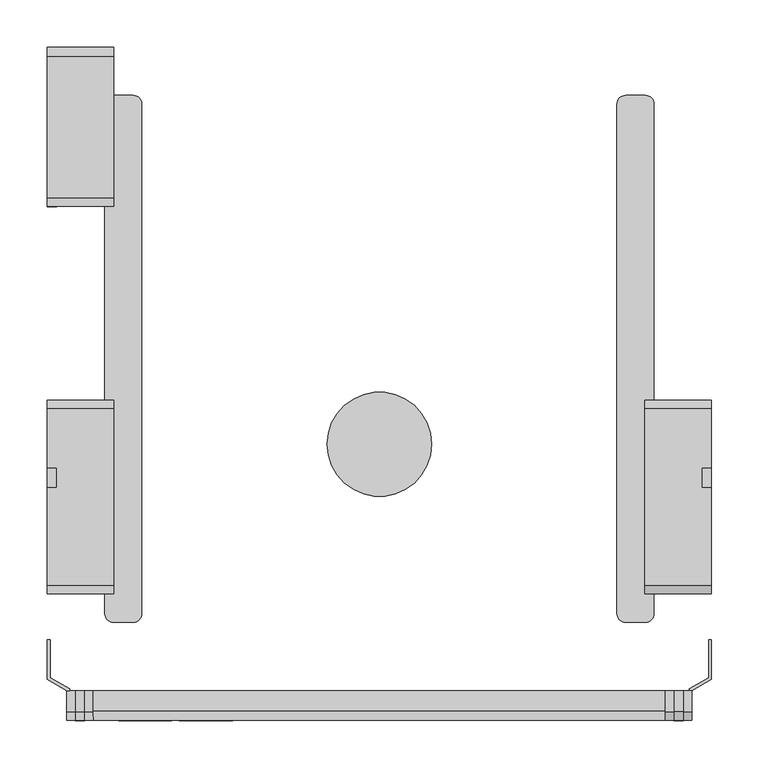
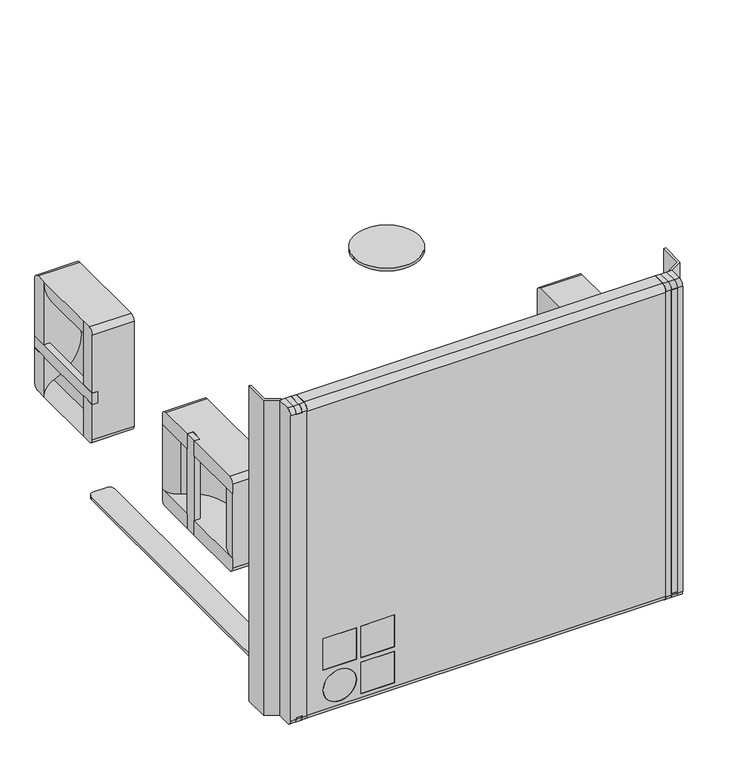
"""IFC4 building model written with IfcOpenShell, lengths in millimetres: proxy geometry, d&b SL-Series XSL-GSUB : XSL-GSUB."""

from ifc_helpers import new_model, si_unit, point, frame, frame_2d, origin, origin_with_axes, place, context, project, spatial, polyline, circle_curve, trimmed, segment, composite_curve, outline, extrude, source, transform, mapped, element, save
from ifc_brep_helpers import plane_surface, cylinder_surface, revolved_surface, advanced_brep


def communication_devices_533f041e(model_context):
    return source(origin(), model_context, "Body", "SolidModel", [
        advanced_brep(
        [(2780.0, 72.7505973, 211.5), (2780.0, 72.7505973, 361.0), (2780.0, 81.7505973, 370.0), (2780.0, 267.7505973, 370.0), (2780.0, 276.7505973, 361.0), (2780.0, 276.7505973, 211.5), (2780.0, 267.7505973, 202.5), (2780.0, 81.7505973, 202.5), (2850.0, 276.7505973, 228.5), (2850.0, 205.4484339, 228.5), (2850.0, 205.4484339, 202.5), (2850.0, 267.7505973, 202.5), (2850.0, 276.7505973, 211.5), (2850.0, 72.7505973, 211.5), (2850.0, 81.7505973, 202.5), (2850.0, 184.6043444, 202.5), (2850.0, 184.6043444, 228.5), (2850.0, 72.7505973, 228.5), (2850.0, 72.7505973, 361.0), (2850.0, 72.7505973, 344.0), (2850.0, 184.6043444, 344.0), (2850.0, 184.6043444, 370.0), (2850.0, 81.7505973, 370.0), (2850.0, 276.7505973, 344.0), (2850.0, 276.7505973, 361.0), (2850.0, 267.7505973, 370.0), (2850.0, 205.4484339, 370.0), (2850.0, 205.4484339, 344.0), (2840.0, 205.4484339, 202.5), (2840.0, 184.6043444, 202.5), (2840.0, 184.6043444, 228.5), (2833.0638712, 252.8480463, 228.5), (2818.7971722, 129.7198126, 228.5), (2840.0, 205.4484339, 228.5), (2818.7971722, 129.7198126, 344.0), (2833.0638712, 252.8480463, 344.0), (2840.0, 205.4484339, 344.0), (2840.0, 184.6043444, 344.0), (2840.0, 184.6043444, 370.0), (2840.0, 205.4484339, 370.0)],
        [
            (0, 1),
            (1, 2, circle_curve(frame((2780.0, 81.7505973, 361.0), z_axis=(-1.0, 0.0, 0.0), x_axis=(0.0, 0.0, 1.0)), 9.0)),
            (2, 3),
            (3, 4, circle_curve(frame((2780.0, 267.7505973, 361.0), z_axis=(-1.0, 0.0, 0.0), x_axis=(0.0, 0.0, 1.0)), 9.0)),
            (4, 5),
            (5, 6, circle_curve(frame((2780.0, 267.7505973, 211.5), z_axis=(-1.0, 0.0, 0.0), x_axis=(0.0, 0.0, -1.0)), 9.0)),
            (6, 7),
            (7, 0, circle_curve(frame((2780.0, 81.7505973, 211.5), z_axis=(-1.0, 0.0, 0.0), x_axis=(0.0, 0.0, -1.0)), 9.0)),
            (8, 9),
            (9, 10),
            (10, 11),
            (11, 12, circle_curve(frame((2850.0, 267.7505973, 211.5), z_axis=(1.0, 0.0, 0.0), x_axis=(0.0, 0.0, -1.0)), 9.0)),
            (12, 8),
            (13, 14, circle_curve(frame((2850.0, 81.7505973, 211.5), z_axis=(1.0, 0.0, 0.0), x_axis=(0.0, 0.0, -1.0)), 9.0)),
            (14, 15),
            (15, 16),
            (16, 17),
            (17, 13),
            (18, 19),
            (19, 20),
            (20, 21),
            (21, 22),
            (22, 18, circle_curve(frame((2850.0, 81.7505973, 361.0), z_axis=(1.0, 0.0, 0.0), x_axis=(0.0, 0.0, 1.0)), 9.0)),
            (23, 24),
            (24, 25, circle_curve(frame((2850.0, 267.7505973, 361.0), z_axis=(1.0, 0.0, 0.0), x_axis=(0.0, 0.0, 1.0)), 9.0)),
            (25, 26),
            (26, 27),
            (27, 23),
            (7, 14),
            (13, 0),
            (10, 28),
            (28, 29),
            (29, 15),
            (6, 11),
            (5, 12),
            (4, 24),
            (23, 8),
            (17, 19),
            (18, 1),
            (29, 30),
            (30, 16),
            (8, 31, circle_curve(frame((2824.6646824, 276.7505973, 228.5), z_axis=(0.0, 0.0, -1.0), x_axis=(-1.0, 0.0, 0.0)), 25.3353176)),
            (31, 32, circle_curve(frame((2855.918024, 187.8093188, 228.5), z_axis=(0.0, 0.0, 1.0), x_axis=(-1.0, 0.0, 0.0)), 68.9372786)),
            (32, 17, circle_curve(frame((2782.3922182, 72.7505973, 228.5), z_axis=(0.0, 0.0, -1.0), x_axis=(-1.0, 0.0, 0.0)), 67.6077818)),
            (30, 33),
            (33, 9),
            (33, 28),
            (19, 34, circle_curve(frame((2782.3922182, 72.7505973, 344.0), z_axis=(0.0, 0.0, 1.0), x_axis=(-1.0, 0.0, 0.0)), 67.6077818)),
            (34, 35, circle_curve(frame((2855.918024, 187.8093188, 344.0), z_axis=(0.0, 0.0, -1.0), x_axis=(-1.0, 0.0, 0.0)), 68.9372786)),
            (35, 23, circle_curve(frame((2824.6646824, 276.7505973, 344.0), z_axis=(0.0, 0.0, 1.0), x_axis=(-1.0, 0.0, 0.0)), 25.3353176)),
            (27, 36),
            (36, 37),
            (37, 20),
            (37, 38),
            (38, 21),
            (38, 39),
            (39, 26),
            (25, 3),
            (2, 22),
            (39, 36),
            (32, 34),
            (35, 31),
        ],
        [
            plane_surface(frame((2780.0, 81.7505973, 202.5), z_axis=(-1.0, 0.0, 0.0), x_axis=(0.0, 1.0, 0.0))),
            plane_surface(frame((2850.0, 81.7505973, 202.5), z_axis=(1.0, 0.0, 0.0), x_axis=(0.0, -1.0, 0.0))),
            cylinder_surface(frame((2850.0, 81.7505973, 211.5), z_axis=(-1.0, 0.0, 0.0), x_axis=(0.0, 0.0, -1.0)), 9.0),
            plane_surface(frame((2780.0, 81.7505973, 202.5), z_axis=(0.0, 0.0, -1.0), x_axis=(1.0, 0.0, 0.0))),
            cylinder_surface(frame((2850.0, 267.7505973, 211.5), z_axis=(-1.0, 0.0, 0.0), x_axis=(0.0, 0.0, -1.0)), 9.0),
            plane_surface(frame((2780.0, 276.7505973, 211.5), z_axis=(0.0, 1.0, 0.0), x_axis=(1.0, 0.0, 0.0))),
            plane_surface(frame((2780.0, 72.7505973, 228.5), z_axis=(0.0, -1.0, 0.0), x_axis=(1.0, 0.0, 0.0))),
            plane_surface(frame((2780.0, 184.6043444, 202.5), z_axis=(0.0, 1.0, 0.0), x_axis=(1.0, 0.0, 0.0))),
            plane_surface(frame((2780.0, 184.6043444, 228.5), z_axis=(0.0, 0.0, 1.0), x_axis=(1.0, 0.0, 0.0))),
            plane_surface(frame((2780.0, 205.4484339, 228.5), z_axis=(0.0, -1.0, 0.0), x_axis=(1.0, 0.0, 0.0))),
            plane_surface(frame((2780.0, 72.7505973, 344.0), z_axis=(0.0, 0.0, -1.0), x_axis=(1.0, 0.0, 0.0))),
            plane_surface(frame((2780.0, 184.6043444, 344.0), z_axis=(0.0, 1.0, 0.0), x_axis=(1.0, 0.0, 0.0))),
            plane_surface(frame((2780.0, 184.6043444, 370.0), z_axis=(0.0, 0.0, 1.0), x_axis=(1.0, 0.0, 0.0))),
            cylinder_surface(frame((2850.0, 81.7505973, 361.0), z_axis=(-1.0, 0.0, 0.0), x_axis=(0.0, 0.0, 1.0)), 9.0),
            cylinder_surface(frame((2850.0, 267.7505973, 361.0), z_axis=(-1.0, 0.0, 0.0), x_axis=(0.0, 0.0, 1.0)), 9.0),
            plane_surface(frame((2780.0, 205.4484339, 370.0), z_axis=(0.0, -1.0, 0.0), x_axis=(1.0, 0.0, 0.0))),
            plane_surface(frame((2840.0, 205.4484339, 228.5), z_axis=(1.0, 0.0, 0.0), x_axis=(0.0, 0.0, -1.0))),
            cylinder_surface(frame((2782.3922182, 72.7505973, 228.5), z_axis=(0.0, 0.0, 1.0), x_axis=(-1.0, 0.0, 0.0)), 67.6077818),
            cylinder_surface(frame((2824.6646824, 276.7505973, 228.5), z_axis=(0.0, 0.0, 1.0), x_axis=(-1.0, 0.0, 0.0)), 25.3353176),
            revolved_surface(polyline([(2786.9807454, 187.8093188, 228.5), (2786.9807454, 187.8093188, 344.0)]), (2855.918024, 187.8093188, 228.5), (0.0, 0.0, -1.0)),
        ],
        [
            (0, [[1, 2, 3, 4, 5, 6, 7, 8]]),
            (1, [[9, 10, 11, 12, 13]]),
            (1, [[14, 15, 16, 17, 18]]),
            (1, [[19, 20, 21, 22, 23]]),
            (1, [[24, 25, 26, 27, 28]]),
            (2, [[29, -14, 30, -8]]),
            (3, [[31, 32, 33, -15, -29, -7, 34, -11]]),
            (4, [[35, -12, -34, -6]]),
            (5, [[36, -24, 37, -13, -35, -5]]),
            (6, [[-30, -18, 38, -19, 39, -1]]),
            (7, [[-33, 40, 41, -16]]),
            (8, [[42, 43, 44, -17, -41, 45, 46, -9]]),
            (9, [[-46, 47, -31, -10]]),
            (10, [[48, 49, 50, -28, 51, 52, 53, -20]]),
            (11, [[-53, 54, 55, -21]]),
            (12, [[-55, 56, 57, -26, 58, -3, 59, -22]]),
            (13, [[-39, -23, -59, -2]]),
            (14, [[-58, -25, -36, -4]]),
            (15, [[-57, 60, -51, -27]]),
            (16, [[-47, -45, -40, -32]]),
            (16, [[-60, -56, -54, -52]]),
            (17, [[-48, -38, -44, 61]]),
            (18, [[-50, 62, -42, -37]]),
            (19, [[-43, -62, -49, -61]]),
        ],
    ),
        extrude(outline(polyline([(2840.0, 205.4484339), (2850.0, 205.4484339), (2850.0, 184.6043444), (2840.0, 184.6043444), (2840.0, 205.4484339)])), frame((0.0, 0.0, 202.5), z_axis=(0.0, 0.0, 1.0), x_axis=(1.0, 0.0, 0.0)), (0.0, 0.0, 1.0), 167.5),
        advanced_brep(
        [(2220.0, 639.2505973, 387.5), (2220.0, 489.7505973, 387.5), (2220.0, 480.7505973, 378.5), (2220.0, 480.7505973, 192.5), (2220.0, 489.7505973, 183.5), (2220.0, 639.2505973, 183.5), (2220.0, 648.2505973, 192.5), (2220.0, 648.2505973, 378.5), (2150.0, 622.2505973, 183.5), (2150.0, 622.2505973, 254.8021634), (2150.0, 648.2505973, 254.8021634), (2150.0, 648.2505973, 192.5), (2150.0, 639.2505973, 183.5), (2150.0, 639.2505973, 387.5), (2150.0, 648.2505973, 378.5), (2150.0, 648.2505973, 275.646253), (2150.0, 622.2505973, 275.646253), (2150.0, 622.2505973, 387.5), (2150.0, 489.7505973, 387.5), (2150.0, 506.7505973, 387.5), (2150.0, 506.7505973, 275.646253), (2150.0, 480.7505973, 275.646253), (2150.0, 480.7505973, 378.5), (2150.0, 506.7505973, 183.5), (2150.0, 489.7505973, 183.5), (2150.0, 480.7505973, 192.5), (2150.0, 480.7505973, 254.8021634), (2150.0, 506.7505973, 254.8021634), (2160.0, 648.2505973, 254.8021634), (2160.0, 648.2505973, 275.646253), (2160.0, 622.2505973, 275.646253), (2166.9361288, 622.2505973, 207.402551), (2181.2028278, 622.2505973, 330.5307847), (2160.0, 622.2505973, 254.8021634), (2181.2028278, 506.7505973, 330.5307847), (2166.9361288, 506.7505973, 207.402551), (2160.0, 506.7505973, 254.8021634), (2160.0, 506.7505973, 275.646253), (2160.0, 480.7505973, 275.646253), (2160.0, 480.7505973, 254.8021634)],
        [
            (0, 1),
            (1, 2, circle_curve(frame((2220.0, 489.7505973, 378.5), z_axis=(1.0, 0.0, 0.0), x_axis=(0.0, -1.0, 0.0)), 9.0)),
            (2, 3),
            (3, 4, circle_curve(frame((2220.0, 489.7505973, 192.5), z_axis=(1.0, 0.0, 0.0), x_axis=(0.0, -1.0, 0.0)), 9.0)),
            (4, 5),
            (5, 6, circle_curve(frame((2220.0, 639.2505973, 192.5), z_axis=(1.0, 0.0, 0.0), x_axis=(0.0, 1.0, 0.0)), 9.0)),
            (6, 7),
            (7, 0, circle_curve(frame((2220.0, 639.2505973, 378.5), z_axis=(1.0, 0.0, 0.0), x_axis=(0.0, 1.0, 0.0)), 9.0)),
            (8, 9),
            (9, 10),
            (10, 11),
            (11, 12, circle_curve(frame((2150.0, 639.2505973, 192.5), z_axis=(-1.0, 0.0, 0.0), x_axis=(0.0, 1.0, 0.0)), 9.0)),
            (12, 8),
            (13, 14, circle_curve(frame((2150.0, 639.2505973, 378.5), z_axis=(-1.0, 0.0, 0.0), x_axis=(0.0, 1.0, 0.0)), 9.0)),
            (14, 15),
            (15, 16),
            (16, 17),
            (17, 13),
            (18, 19),
            (19, 20),
            (20, 21),
            (21, 22),
            (22, 18, circle_curve(frame((2150.0, 489.7505973, 378.5), z_axis=(-1.0, 0.0, 0.0), x_axis=(0.0, -1.0, 0.0)), 9.0)),
            (23, 24),
            (24, 25, circle_curve(frame((2150.0, 489.7505973, 192.5), z_axis=(-1.0, 0.0, 0.0), x_axis=(0.0, -1.0, 0.0)), 9.0)),
            (25, 26),
            (26, 27),
            (27, 23),
            (7, 14),
            (13, 0),
            (10, 28),
            (28, 29),
            (29, 15),
            (6, 11),
            (5, 12),
            (4, 24),
            (23, 8),
            (17, 19),
            (18, 1),
            (29, 30),
            (30, 16),
            (8, 31, circle_curve(frame((2175.3353176, 622.2505973, 183.5), z_axis=(0.0, 1.0, 0.0), x_axis=(1.0, 0.0, 0.0)), 25.3353176)),
            (31, 32, circle_curve(frame((2144.081976, 622.2505973, 272.4412785), z_axis=(0.0, -1.0, 0.0), x_axis=(1.0, 0.0, 0.0)), 68.9372786)),
            (32, 17, circle_curve(frame((2217.6077818, 622.2505973, 387.5), z_axis=(0.0, 1.0, 0.0), x_axis=(1.0, 0.0, 0.0)), 67.6077818)),
            (30, 33),
            (33, 9),
            (33, 28),
            (19, 34, circle_curve(frame((2217.6077818, 506.7505973, 387.5), z_axis=(0.0, -1.0, 0.0), x_axis=(1.0, 0.0, 0.0)), 67.6077818)),
            (34, 35, circle_curve(frame((2144.081976, 506.7505973, 272.4412785), z_axis=(0.0, 1.0, 0.0), x_axis=(1.0, 0.0, 0.0)), 68.9372786)),
            (35, 23, circle_curve(frame((2175.3353176, 506.7505973, 183.5), z_axis=(0.0, -1.0, 0.0), x_axis=(1.0, 0.0, 0.0)), 25.3353176)),
            (27, 36),
            (36, 37),
            (37, 20),
            (37, 38),
            (38, 21),
            (38, 39),
            (39, 26),
            (25, 3),
            (2, 22),
            (39, 36),
            (32, 34),
            (35, 31),
        ],
        [
            plane_surface(frame((2220.0, 648.2505973, 378.5), z_axis=(1.0, 0.0, 0.0), x_axis=(0.0, 0.0, -1.0))),
            plane_surface(frame((2150.0, 648.2505973, 378.5), z_axis=(-1.0, 0.0, 0.0), x_axis=(0.0, 0.0, 1.0))),
            cylinder_surface(frame((2150.0, 639.2505973, 378.5), z_axis=(1.0, 0.0, 0.0), x_axis=(0.0, 1.0, 0.0)), 9.0),
            plane_surface(frame((2220.0, 648.2505973, 378.5), z_axis=(0.0, 1.0, 0.0), x_axis=(-1.0, 0.0, 0.0))),
            cylinder_surface(frame((2150.0, 639.2505973, 192.5), z_axis=(1.0, 0.0, 0.0), x_axis=(0.0, 1.0, 0.0)), 9.0),
            plane_surface(frame((2220.0, 639.2505973, 183.5), z_axis=(0.0, 0.0, -1.0), x_axis=(-1.0, 0.0, 0.0))),
            plane_surface(frame((2220.0, 622.2505973, 387.5), z_axis=(0.0, 0.0, 1.0), x_axis=(-1.0, 0.0, 0.0))),
            plane_surface(frame((2220.0, 648.2505973, 275.646253), z_axis=(0.0, 0.0, -1.0), x_axis=(-1.0, 0.0, 0.0))),
            plane_surface(frame((2220.0, 622.2505973, 275.646253), z_axis=(0.0, -1.0, 0.0), x_axis=(-1.0, 0.0, 0.0))),
            plane_surface(frame((2220.0, 622.2505973, 254.8021634), z_axis=(0.0, 0.0, 1.0), x_axis=(-1.0, 0.0, 0.0))),
            plane_surface(frame((2220.0, 506.7505973, 387.5), z_axis=(0.0, 1.0, 0.0), x_axis=(-1.0, 0.0, 0.0))),
            plane_surface(frame((2220.0, 506.7505973, 275.646253), z_axis=(0.0, 0.0, -1.0), x_axis=(-1.0, 0.0, 0.0))),
            plane_surface(frame((2220.0, 480.7505973, 275.646253), z_axis=(0.0, -1.0, 0.0), x_axis=(-1.0, 0.0, 0.0))),
            cylinder_surface(frame((2150.0, 489.7505973, 378.5), z_axis=(1.0, 0.0, 0.0), x_axis=(0.0, -1.0, 0.0)), 9.0),
            cylinder_surface(frame((2150.0, 489.7505973, 192.5), z_axis=(1.0, 0.0, 0.0), x_axis=(0.0, -1.0, 0.0)), 9.0),
            plane_surface(frame((2220.0, 480.7505973, 254.8021634), z_axis=(0.0, 0.0, 1.0), x_axis=(-1.0, 0.0, 0.0))),
            plane_surface(frame((2160.0, 622.2505973, 254.8021634), z_axis=(-1.0, 0.0, 0.0), x_axis=(0.0, 1.0, 0.0))),
            cylinder_surface(frame((2217.6077818, 622.2505973, 387.5), z_axis=(0.0, -1.0, 0.0), x_axis=(1.0, 0.0, 0.0)), 67.6077818),
            cylinder_surface(frame((2175.3353176, 622.2505973, 183.5), z_axis=(0.0, -1.0, 0.0), x_axis=(1.0, 0.0, 0.0)), 25.3353176),
            revolved_surface(polyline([(2213.0192546, 622.2505973, 272.4412785), (2213.0192546, 506.7505973, 272.4412785)]), (2144.081976, 622.2505973, 272.4412785), (0.0, 1.0, 0.0)),
        ],
        [
            (0, [[1, 2, 3, 4, 5, 6, 7, 8]]),
            (1, [[9, 10, 11, 12, 13]]),
            (1, [[14, 15, 16, 17, 18]]),
            (1, [[19, 20, 21, 22, 23]]),
            (1, [[24, 25, 26, 27, 28]]),
            (2, [[29, -14, 30, -8]]),
            (3, [[31, 32, 33, -15, -29, -7, 34, -11]]),
            (4, [[35, -12, -34, -6]]),
            (5, [[36, -24, 37, -13, -35, -5]]),
            (6, [[-30, -18, 38, -19, 39, -1]]),
            (7, [[-33, 40, 41, -16]]),
            (8, [[42, 43, 44, -17, -41, 45, 46, -9]]),
            (9, [[-46, 47, -31, -10]]),
            (10, [[48, 49, 50, -28, 51, 52, 53, -20]]),
            (11, [[-53, 54, 55, -21]]),
            (12, [[-55, 56, 57, -26, 58, -3, 59, -22]]),
            (13, [[-39, -23, -59, -2]]),
            (14, [[-58, -25, -36, -4]]),
            (15, [[-57, 60, -51, -27]]),
            (16, [[-47, -45, -40, -32]]),
            (16, [[-60, -56, -54, -52]]),
            (17, [[-48, -38, -44, 61]]),
            (18, [[-50, 62, -42, -37]]),
            (19, [[-43, -62, -49, -61]]),
        ],
    ),
        extrude(outline(polyline([(2160.0, 480.7505973), (2150.0, 480.7505973), (2150.0, 648.2505973), (2160.0, 648.2505973), (2160.0, 480.7505973)])), frame((0.0, 0.0, 254.8021634), z_axis=(0.0, 0.0, 1.0), x_axis=(1.0, 0.0, 0.0)), (0.0, 0.0, 1.0), 20.8440895),
        advanced_brep(
        [(2220.0, 72.7505973, 211.5), (2220.0, 81.7505973, 202.5), (2220.0, 267.7505973, 202.5), (2220.0, 276.7505973, 211.5), (2220.0, 276.7505973, 361.0), (2220.0, 267.7505973, 370.0), (2220.0, 81.7505973, 370.0), (2220.0, 72.7505973, 361.0), (2150.0, 276.7505973, 228.5), (2150.0, 276.7505973, 211.5), (2150.0, 267.7505973, 202.5), (2150.0, 205.4484339, 202.5), (2150.0, 205.4484339, 228.5), (2150.0, 72.7505973, 211.5), (2150.0, 72.7505973, 228.5), (2150.0, 184.6043444, 228.5), (2150.0, 184.6043444, 202.5), (2150.0, 81.7505973, 202.5), (2150.0, 72.7505973, 361.0), (2150.0, 81.7505973, 370.0), (2150.0, 184.6043444, 370.0), (2150.0, 184.6043444, 344.0), (2150.0, 72.7505973, 344.0), (2150.0, 276.7505973, 344.0), (2150.0, 205.4484339, 344.0), (2150.0, 205.4484339, 370.0), (2150.0, 267.7505973, 370.0), (2150.0, 276.7505973, 361.0), (2160.0, 184.6043444, 202.5), (2160.0, 205.4484339, 202.5), (2160.0, 184.6043444, 228.5), (2160.0, 205.4484339, 228.5), (2181.2028278, 129.7198126, 228.5), (2166.9361288, 252.8480463, 228.5), (2160.0, 184.6043444, 344.0), (2160.0, 205.4484339, 344.0), (2166.9361288, 252.8480463, 344.0), (2181.2028278, 129.7198126, 344.0), (2160.0, 184.6043444, 370.0), (2160.0, 205.4484339, 370.0)],
        [
            (0, 1, circle_curve(frame((2220.0, 81.7505973, 211.5), z_axis=(1.0, 0.0, 0.0), x_axis=(0.0, 0.0, -1.0)), 9.0)),
            (1, 2),
            (2, 3, circle_curve(frame((2220.0, 267.7505973, 211.5), z_axis=(1.0, 0.0, 0.0), x_axis=(0.0, 0.0, -1.0)), 9.0)),
            (3, 4),
            (4, 5, circle_curve(frame((2220.0, 267.7505973, 361.0), z_axis=(1.0, 0.0, 0.0), x_axis=(0.0, 0.0, 1.0)), 9.0)),
            (5, 6),
            (6, 7, circle_curve(frame((2220.0, 81.7505973, 361.0), z_axis=(1.0, 0.0, 0.0), x_axis=(0.0, 0.0, 1.0)), 9.0)),
            (7, 0),
            (8, 9),
            (9, 10, circle_curve(frame((2150.0, 267.7505973, 211.5), z_axis=(-1.0, 0.0, 0.0), x_axis=(0.0, 0.0, -1.0)), 9.0)),
            (10, 11),
            (11, 12),
            (12, 8),
            (13, 14),
            (14, 15),
            (15, 16),
            (16, 17),
            (17, 13, circle_curve(frame((2150.0, 81.7505973, 211.5), z_axis=(-1.0, 0.0, 0.0), x_axis=(0.0, 0.0, -1.0)), 9.0)),
            (18, 19, circle_curve(frame((2150.0, 81.7505973, 361.0), z_axis=(-1.0, 0.0, 0.0), x_axis=(0.0, 0.0, 1.0)), 9.0)),
            (19, 20),
            (20, 21),
            (21, 22),
            (22, 18),
            (23, 24),
            (24, 25),
            (25, 26),
            (26, 27, circle_curve(frame((2150.0, 267.7505973, 361.0), z_axis=(-1.0, 0.0, 0.0), x_axis=(0.0, 0.0, 1.0)), 9.0)),
            (27, 23),
            (0, 13),
            (17, 1),
            (10, 2),
            (16, 28),
            (28, 29),
            (29, 11),
            (9, 3),
            (8, 23),
            (27, 4),
            (7, 18),
            (22, 14),
            (15, 30),
            (30, 28),
            (12, 31),
            (31, 30),
            (14, 32, circle_curve(frame((2217.6077818, 72.7505973, 228.5), z_axis=(0.0, 0.0, -1.0), x_axis=(1.0, 0.0, 0.0)), 67.6077818)),
            (32, 33, circle_curve(frame((2144.081976, 187.8093188, 228.5), z_axis=(0.0, 0.0, 1.0), x_axis=(1.0, 0.0, 0.0)), 68.9372786)),
            (33, 8, circle_curve(frame((2175.3353176, 276.7505973, 228.5), z_axis=(0.0, 0.0, -1.0), x_axis=(1.0, 0.0, 0.0)), 25.3353176)),
            (29, 31),
            (21, 34),
            (34, 35),
            (35, 24),
            (23, 36, circle_curve(frame((2175.3353176, 276.7505973, 344.0), z_axis=(0.0, 0.0, 1.0), x_axis=(1.0, 0.0, 0.0)), 25.3353176)),
            (36, 37, circle_curve(frame((2144.081976, 187.8093188, 344.0), z_axis=(0.0, 0.0, -1.0), x_axis=(1.0, 0.0, 0.0)), 68.9372786)),
            (37, 22, circle_curve(frame((2217.6077818, 72.7505973, 344.0), z_axis=(0.0, 0.0, 1.0), x_axis=(1.0, 0.0, 0.0)), 67.6077818)),
            (20, 38),
            (38, 34),
            (19, 6),
            (5, 26),
            (25, 39),
            (39, 38),
            (35, 39),
            (37, 32),
            (33, 36),
        ],
        [
            plane_surface(frame((2220.0, 81.7505973, 202.5), z_axis=(1.0, 0.0, 0.0), x_axis=(0.0, 1.0, 0.0))),
            plane_surface(frame((2150.0, 81.7505973, 202.5), z_axis=(-1.0, 0.0, 0.0), x_axis=(0.0, -1.0, 0.0))),
            cylinder_surface(frame((2150.0, 81.7505973, 211.5), z_axis=(1.0, 0.0, 0.0), x_axis=(0.0, 0.0, -1.0)), 9.0),
            plane_surface(frame((2220.0, 81.7505973, 202.5), z_axis=(0.0, 0.0, -1.0), x_axis=(-1.0, 0.0, 0.0))),
            cylinder_surface(frame((2150.0, 267.7505973, 211.5), z_axis=(1.0, 0.0, 0.0), x_axis=(0.0, 0.0, -1.0)), 9.0),
            plane_surface(frame((2220.0, 276.7505973, 211.5), z_axis=(0.0, 1.0, 0.0), x_axis=(-1.0, 0.0, 0.0))),
            plane_surface(frame((2220.0, 72.7505973, 228.5), z_axis=(0.0, -1.0, 0.0), x_axis=(-1.0, 0.0, 0.0))),
            plane_surface(frame((2220.0, 184.6043444, 202.5), z_axis=(0.0, 1.0, 0.0), x_axis=(-1.0, 0.0, 0.0))),
            plane_surface(frame((2220.0, 184.6043444, 228.5), z_axis=(0.0, 0.0, 1.0), x_axis=(-1.0, 0.0, 0.0))),
            plane_surface(frame((2220.0, 205.4484339, 228.5), z_axis=(0.0, -1.0, 0.0), x_axis=(-1.0, 0.0, 0.0))),
            plane_surface(frame((2220.0, 72.7505973, 344.0), z_axis=(0.0, 0.0, -1.0), x_axis=(-1.0, 0.0, 0.0))),
            plane_surface(frame((2220.0, 184.6043444, 344.0), z_axis=(0.0, 1.0, 0.0), x_axis=(-1.0, 0.0, 0.0))),
            plane_surface(frame((2220.0, 184.6043444, 370.0), z_axis=(0.0, 0.0, 1.0), x_axis=(-1.0, 0.0, 0.0))),
            cylinder_surface(frame((2150.0, 81.7505973, 361.0), z_axis=(1.0, 0.0, 0.0), x_axis=(0.0, 0.0, 1.0)), 9.0),
            cylinder_surface(frame((2150.0, 267.7505973, 361.0), z_axis=(1.0, 0.0, 0.0), x_axis=(0.0, 0.0, 1.0)), 9.0),
            plane_surface(frame((2220.0, 205.4484339, 370.0), z_axis=(0.0, -1.0, 0.0), x_axis=(-1.0, 0.0, 0.0))),
            plane_surface(frame((2160.0, 205.4484339, 228.5), z_axis=(-1.0, 0.0, 0.0), x_axis=(0.0, 0.0, -1.0))),
            cylinder_surface(frame((2217.6077818, 72.7505973, 228.5), z_axis=(0.0, 0.0, 1.0), x_axis=(1.0, 0.0, 0.0)), 67.6077818),
            cylinder_surface(frame((2175.3353176, 276.7505973, 228.5), z_axis=(0.0, 0.0, 1.0), x_axis=(1.0, 0.0, 0.0)), 25.3353176),
            revolved_surface(polyline([(2213.0192546, 187.8093188, 228.5), (2213.0192546, 187.8093188, 344.0)]), (2144.081976, 187.8093188, 228.5), (0.0, 0.0, -1.0)),
        ],
        [
            (0, [[1, 2, 3, 4, 5, 6, 7, 8]]),
            (1, [[9, 10, 11, 12, 13]]),
            (1, [[14, 15, 16, 17, 18]]),
            (1, [[19, 20, 21, 22, 23]]),
            (1, [[24, 25, 26, 27, 28]]),
            (2, [[-1, 29, -18, 30]]),
            (3, [[-11, 31, -2, -30, -17, 32, 33, 34]]),
            (4, [[-3, -31, -10, 35]]),
            (5, [[-4, -35, -9, 36, -28, 37]]),
            (6, [[-8, 38, -23, 39, -14, -29]]),
            (7, [[-16, 40, 41, -32]]),
            (8, [[-13, 42, 43, -40, -15, 44, 45, 46]]),
            (9, [[-12, -34, 47, -42]]),
            (10, [[-22, 48, 49, 50, -24, 51, 52, 53]]),
            (11, [[-21, 54, 55, -48]]),
            (12, [[-20, 56, -6, 57, -26, 58, 59, -54]]),
            (13, [[-7, -56, -19, -38]]),
            (14, [[-5, -37, -27, -57]]),
            (15, [[-25, -50, 60, -58]]),
            (16, [[-33, -41, -43, -47]]),
            (16, [[-49, -55, -59, -60]]),
            (17, [[61, -44, -39, -53]]),
            (18, [[-36, -46, 62, -51]]),
            (19, [[-61, -52, -62, -45]]),
        ],
    ),
        extrude(outline(polyline([(2160.0, 205.4484339), (2160.0, 184.6043444), (2150.0, 184.6043444), (2150.0, 205.4484339), (2160.0, 205.4484339)])), frame((0.0, 0.0, 202.5), z_axis=(0.0, 0.0, 1.0), x_axis=(1.0, 0.0, 0.0)), (0.0, 0.0, 1.0), 167.5),
        extrude(outline(polyline([(2810.5, -60.7494027), (2810.5, -29.2494027), (2820.5, -29.2494027), (2820.5, -60.7494027), (2810.5, -60.7494027)])), frame((0.0, 0.0, 16.6), z_axis=(0.0, 0.0, 1.0), x_axis=(1.0, 0.0, 0.0)), (0.0, 0.0, 1.0), 538.4),
        extrude(outline(composite_curve([segment(polyline([(-29.2494027, 565.0), (-29.2494027, 5.0), (-51.7494027, 5.0)]), True, "CONTINUOUS"), segment(trimmed(circle_curve(frame_2d((-51.7494027, 14.0)), 9.0), [point((-51.7494027, 5.0))], [point((-60.7494027, 14.0))], False, "CARTESIAN"), True, "CONTINUOUS"), segment(polyline([(-60.7494027, 14.0), (-60.7494027, 556.0)]), True, "CONTINUOUS"), segment(trimmed(circle_curve(frame_2d((-51.7494027, 556.0)), 9.0), [point((-60.7494027, 556.0))], [point((-51.7494027, 565.0))], False, "CARTESIAN"), True, "CONTINUOUS"), segment(polyline([(-51.7494027, 565.0), (-29.2494027, 565.0)]), True, "CONTINUOUS")], self_intersect=False)), frame((2801.5, 0.0, 0.0), z_axis=(1.0, 0.0, 0.0), x_axis=(0.0, 1.0, 0.0)), (0.0, 0.0, 1.0), 9.0),
        extrude(outline(composite_curve([segment(polyline([(-29.2494027, 555.0), (-60.7494027, 555.0), (-60.7494027, 556.0)]), True, "CONTINUOUS"), segment(trimmed(circle_curve(frame_2d((-51.7494027, 556.0)), 9.0), [point((-60.7494027, 556.0))], [point((-51.7494027, 565.0))], False, "CARTESIAN"), True, "CONTINUOUS"), segment(polyline([(-51.7494027, 565.0), (-29.2494027, 565.0), (-29.2494027, 555.0)]), True, "CONTINUOUS")], self_intersect=False)), frame((2810.5, 0.0, 0.0), z_axis=(1.0, 0.0, 0.0), x_axis=(0.0, 1.0, 0.0)), (0.0, 0.0, 1.0), 10.0),
        extrude(outline(composite_curve([segment(polyline([(-29.2494027, 16.6), (-29.2494027, 5.0), (-51.7494027, 5.0)]), True, "CONTINUOUS"), segment(trimmed(circle_curve(frame_2d((-51.7494027, 14.0)), 9.0), [point((-51.7494027, 5.0))], [point((-60.7494027, 14.0))], False, "CARTESIAN"), True, "CONTINUOUS"), segment(polyline([(-60.7494027, 14.0), (-60.7494027, 16.6), (-29.2494027, 16.6)]), True, "CONTINUOUS")], self_intersect=False)), frame((2810.5, 0.0, 0.0), z_axis=(1.0, 0.0, 0.0), x_axis=(0.0, 1.0, 0.0)), (0.0, 0.0, 1.0), 10.0),
        extrude(outline(composite_curve([segment(polyline([(-29.2494027, 565.0), (-29.2494027, 5.0), (-51.7494027, 5.0)]), True, "CONTINUOUS"), segment(trimmed(circle_curve(frame_2d((-51.7494027, 14.0)), 9.0), [point((-51.7494027, 5.0))], [point((-60.7494027, 14.0))], False, "CARTESIAN"), True, "CONTINUOUS"), segment(polyline([(-60.7494027, 14.0), (-60.7494027, 556.0)]), True, "CONTINUOUS"), segment(trimmed(circle_curve(frame_2d((-51.7494027, 556.0)), 9.0), [point((-60.7494027, 556.0))], [point((-51.7494027, 565.0))], False, "CARTESIAN"), True, "CONTINUOUS"), segment(polyline([(-51.7494027, 565.0), (-29.2494027, 565.0)]), True, "CONTINUOUS")], self_intersect=False)), frame((2820.5, 0.0, 0.0), z_axis=(1.0, 0.0, 0.0), x_axis=(0.0, 1.0, 0.0)), (0.0, 0.0, 1.0), 9.0),
        extrude(outline(polyline([(2153.0, 24.2505973), (2153.0, -15.6816714), (2173.5, -27.5173519), (2173.5, -29.2494027), (2170.5, -29.2494027), (2150.0, -17.4137222), (2150.0, 24.2505973), (2153.0, 24.2505973)])), frame((0.0, 0.0, 5.0), z_axis=(0.0, 0.0, 1.0), x_axis=(1.0, 0.0, 0.0)), (0.0, 0.0, 1.0), 560.0),
        extrude(outline(polyline([(2847.0, 24.2505973), (2850.0, 24.2505973), (2850.0, -17.4137222), (2829.5, -29.2494027), (2826.5, -29.2494027), (2826.5, -27.5173519), (2847.0, -15.6816714), (2847.0, 24.2505973)])), frame((0.0, 0.0, 5.0), z_axis=(0.0, 0.0, 1.0), x_axis=(1.0, 0.0, 0.0)), (0.0, 0.0, 1.0), 560.0),
        advanced_brep(
        [(2281.0, -50.7494027, 141.5), (2225.0, -50.7494027, 141.5), (2225.0, -50.7494027, 85.5), (2281.0, -50.7494027, 85.5), (2345.0, -50.7494027, 141.5), (2289.0, -50.7494027, 141.5), (2289.0, -50.7494027, 85.5), (2345.0, -50.7494027, 85.5), (2345.0, -50.7494027, 77.5), (2289.0, -50.7494027, 77.5), (2289.0, -50.7494027, 21.5), (2345.0, -50.7494027, 21.5), (2225.0, -50.7494027, 49.5), (2281.0, -50.7494027, 49.5), (2281.0, -60.7494027, 85.5), (2281.0, -60.7494027, 141.5), (2225.0, -60.7494027, 85.5), (2225.0, -60.7494027, 141.5), (2345.0, -60.7494027, 85.5), (2345.0, -60.7494027, 141.5), (2289.0, -60.7494027, 85.5), (2289.0, -60.7494027, 141.5), (2345.0, -60.7494027, 21.5), (2345.0, -60.7494027, 77.5), (2289.0, -60.7494027, 21.5), (2289.0, -60.7494027, 77.5), (2281.0, -60.7494027, 49.5), (2225.0, -60.7494027, 49.5), (2801.5, -29.2494027, 5.0), (2801.5, -29.2494027, 565.0), (2801.5, -50.7494027, 565.0), (2801.5, -60.7494027, 555.0), (2801.5, -60.7494027, 15.0), (2801.5, -50.7494027, 5.0), (2198.5, -29.2494027, 5.0), (2198.5, -50.7494027, 5.0), (2198.5, -60.7494027, 15.0), (2198.5, -60.7494027, 555.0), (2198.5, -50.7494027, 565.0), (2198.5, -29.2494027, 565.0)],
        [
            (0, 1),
            (1, 2),
            (2, 3),
            (3, 0),
            (4, 5),
            (5, 6),
            (6, 7),
            (7, 4),
            (8, 9),
            (9, 10),
            (10, 11),
            (11, 8),
            (12, 13, circle_curve(frame((2253.0, -50.7494027, 49.5), z_axis=(0.0, -1.0, 0.0), x_axis=(1.0, 0.0, 0.0)), 28.0)),
            (13, 12, circle_curve(frame((2253.0, -50.7494027, 49.5), z_axis=(0.0, -1.0, 0.0), x_axis=(1.0, 0.0, 0.0)), 28.0)),
            (3, 14),
            (14, 15),
            (15, 0),
            (2, 16),
            (16, 14),
            (1, 17),
            (17, 16),
            (15, 17),
            (7, 18),
            (18, 19),
            (19, 4),
            (6, 20),
            (20, 18),
            (5, 21),
            (21, 20),
            (19, 21),
            (11, 22),
            (22, 23),
            (23, 8),
            (10, 24),
            (24, 22),
            (9, 25),
            (25, 24),
            (23, 25),
            (13, 26),
            (26, 27, circle_curve(frame((2253.0, -60.7494027, 49.5), z_axis=(0.0, -1.0, 0.0), x_axis=(1.0, 0.0, 0.0)), 28.0)),
            (27, 12),
            (27, 26, circle_curve(frame((2253.0, -60.7494027, 49.5), z_axis=(0.0, -1.0, 0.0), x_axis=(1.0, 0.0, 0.0)), 28.0)),
            (28, 29),
            (29, 30),
            (30, 31, circle_curve(frame((2801.5, -50.7494027, 555.0), z_axis=(1.0, 0.0, 0.0), x_axis=(0.0, 1.0, 0.0)), 10.0)),
            (31, 32),
            (32, 33, circle_curve(frame((2801.5, -50.7494027, 15.0), z_axis=(1.0, 0.0, 0.0), x_axis=(0.0, 1.0, 0.0)), 10.0)),
            (33, 28),
            (34, 35),
            (35, 36, circle_curve(frame((2198.5, -50.7494027, 15.0), z_axis=(-1.0, 0.0, 0.0), x_axis=(0.0, 1.0, 0.0)), 10.0)),
            (36, 37),
            (37, 38, circle_curve(frame((2198.5, -50.7494027, 555.0), z_axis=(-1.0, 0.0, 0.0), x_axis=(0.0, 1.0, 0.0)), 10.0)),
            (38, 39),
            (39, 34),
            (28, 34),
            (39, 29),
            (38, 30),
            (37, 31),
            (36, 32),
            (35, 33),
        ],
        [
            plane_surface(frame((2281.0, -50.7494027, 131.0), z_axis=(0.0, -1.0, 0.0), x_axis=(0.0, 0.0, -1.0))),
            plane_surface(frame((2281.0, -50.7494027, 141.5), z_axis=(-1.0, 0.0, 0.0), x_axis=(0.0, -1.0, 0.0))),
            plane_surface(frame((2281.0, -50.7494027, 85.5), z_axis=(0.0, 0.0, 1.0), x_axis=(0.0, -1.0, 0.0))),
            plane_surface(frame((2225.0, -50.7494027, 85.5), z_axis=(1.0, 0.0, 0.0), x_axis=(0.0, -1.0, 0.0))),
            plane_surface(frame((2225.0, -50.7494027, 141.5), z_axis=(0.0, 0.0, -1.0), x_axis=(0.0, -1.0, 0.0))),
            plane_surface(frame((2345.0, -50.7494027, 141.5), z_axis=(-1.0, 0.0, 0.0), x_axis=(0.0, -1.0, 0.0))),
            plane_surface(frame((2345.0, -50.7494027, 85.5), z_axis=(0.0, 0.0, 1.0), x_axis=(0.0, -1.0, 0.0))),
            plane_surface(frame((2289.0, -50.7494027, 85.5), z_axis=(1.0, 0.0, 0.0), x_axis=(0.0, -1.0, 0.0))),
            plane_surface(frame((2289.0, -50.7494027, 141.5), z_axis=(0.0, 0.0, -1.0), x_axis=(0.0, -1.0, 0.0))),
            plane_surface(frame((2345.0, -50.7494027, 77.5), z_axis=(-1.0, 0.0, 0.0), x_axis=(0.0, -1.0, 0.0))),
            plane_surface(frame((2345.0, -50.7494027, 21.5), z_axis=(0.0, 0.0, 1.0), x_axis=(0.0, -1.0, 0.0))),
            plane_surface(frame((2289.0, -50.7494027, 21.5), z_axis=(1.0, 0.0, 0.0), x_axis=(0.0, -1.0, 0.0))),
            plane_surface(frame((2289.0, -50.7494027, 77.5), z_axis=(0.0, 0.0, -1.0), x_axis=(0.0, -1.0, 0.0))),
            revolved_surface(polyline([(2281.0, -50.7494027, 49.5), (2281.0, -60.7494027, 49.5)]), (2253.0, -60.7494027, 49.5), (0.0, 1.0, 0.0)),
            plane_surface(frame((2801.5, -29.2494027, 89.9836141), z_axis=(1.0, 0.0, 0.0), x_axis=(0.0, 0.0, 1.0))),
            plane_surface(frame((2198.5, -29.2494027, 89.9836141), z_axis=(-1.0, 0.0, 0.0), x_axis=(0.0, 0.0, -1.0))),
            plane_surface(frame((2801.5, -29.2494027, 5.0), z_axis=(0.0, 1.0, 0.0), x_axis=(-1.0, 0.0, 0.0))),
            plane_surface(frame((2801.5, -29.2494027, 565.0), z_axis=(0.0, 0.0, 1.0), x_axis=(-1.0, 0.0, 0.0))),
            cylinder_surface(frame((2198.5, -50.7494027, 555.0), z_axis=(1.0, 0.0, 0.0), x_axis=(0.0, 1.0, 0.0)), 10.0),
            plane_surface(frame((2801.5, -60.7494027, 555.0), z_axis=(0.0, -1.0, 0.0), x_axis=(-1.0, 0.0, 0.0))),
            cylinder_surface(frame((2198.5, -50.7494027, 15.0), z_axis=(1.0, 0.0, 0.0), x_axis=(0.0, 1.0, 0.0)), 10.0),
            plane_surface(frame((2801.5, -50.7494027, 5.0), z_axis=(0.0, 0.0, -1.0), x_axis=(-1.0, 0.0, 0.0))),
        ],
        [
            (0, [[1, 2, 3, 4]]),
            (0, [[5, 6, 7, 8]]),
            (0, [[9, 10, 11, 12]]),
            (0, [[13, 14]]),
            (1, [[-4, 15, 16, 17]]),
            (2, [[-3, 18, 19, -15]]),
            (3, [[-2, 20, 21, -18]]),
            (4, [[-1, -17, 22, -20]]),
            (5, [[-8, 23, 24, 25]]),
            (6, [[-7, 26, 27, -23]]),
            (7, [[-6, 28, 29, -26]]),
            (8, [[-5, -25, 30, -28]]),
            (9, [[-12, 31, 32, 33]]),
            (10, [[-11, 34, 35, -31]]),
            (11, [[-10, 36, 37, -34]]),
            (12, [[-9, -33, 38, -36]]),
            (13, [[-14, 39, 40, 41]]),
            (13, [[-13, -41, 42, -39]]),
            (14, [[43, 44, 45, 46, 47, 48]]),
            (15, [[49, 50, 51, 52, 53, 54]]),
            (16, [[-43, 55, -54, 56]]),
            (17, [[-44, -56, -53, 57]]),
            (18, [[-45, -57, -52, 58]]),
            (19, [[-46, -58, -51, 59], [-16, -19, -21, -22], [-24, -27, -29, -30], [-32, -35, -37, -38], [-40, -42]]),
            (20, [[-47, -59, -50, 60]]),
            (21, [[-48, -60, -49, -55]]),
        ],
    ),
        extrude(outline(composite_curve([segment(trimmed(circle_curve(frame_2d((2240.5, 51.7505973)), 9.0), [point((2249.5, 51.7505973))], [point((2240.5, 42.7505973))], False, "CARTESIAN"), True, "CONTINUOUS"), segment(polyline([(2240.5, 42.7505973), (2219.5, 42.7505973)]), True, "CONTINUOUS"), segment(trimmed(circle_curve(frame_2d((2219.5, 51.7505973)), 9.0), [point((2219.5, 42.7505973))], [point((2210.5, 51.7505973))], False, "CARTESIAN"), True, "CONTINUOUS"), segment(polyline([(2210.5, 51.7505973), (2210.5, 588.7503532)]), True, "CONTINUOUS"), segment(trimmed(circle_curve(frame_2d((2219.5, 588.7503532)), 9.0), [point((2210.5, 588.7503532))], [point((2219.5, 597.7503532))], False, "CARTESIAN"), True, "CONTINUOUS"), segment(polyline([(2219.5, 597.7503532), (2240.5, 597.7503532)]), True, "CONTINUOUS"), segment(trimmed(circle_curve(frame_2d((2240.5, 588.7503532)), 9.0), [point((2240.5, 597.7503532))], [point((2249.5, 588.7503532))], False, "CARTESIAN"), True, "CONTINUOUS"), segment(polyline([(2249.5, 588.7503532), (2249.5, 51.7505973)]), True, "CONTINUOUS")], self_intersect=False)), origin_with_axes(), (0.0, 0.0, 1.0), 5.0),
        extrude(outline(composite_curve([segment(polyline([(2750.5, 51.7505973), (2750.5, 588.7503532)]), True, "CONTINUOUS"), segment(trimmed(circle_curve(frame_2d((2759.5, 588.7503532)), 9.0), [point((2750.5, 588.7503532))], [point((2759.5, 597.7503532))], False, "CARTESIAN"), True, "CONTINUOUS"), segment(polyline([(2759.5, 597.7503532), (2780.5, 597.7503532)]), True, "CONTINUOUS"), segment(trimmed(circle_curve(frame_2d((2780.5, 588.7503532)), 9.0), [point((2780.5, 597.7503532))], [point((2789.5, 588.7503532))], False, "CARTESIAN"), True, "CONTINUOUS"), segment(polyline([(2789.5, 588.7503532), (2789.5, 51.7505973)]), True, "CONTINUOUS"), segment(trimmed(circle_curve(frame_2d((2780.5, 51.7505973)), 9.0), [point((2789.5, 51.7505973))], [point((2780.5, 42.7505973))], False, "CARTESIAN"), True, "CONTINUOUS"), segment(polyline([(2780.5, 42.7505973), (2759.5, 42.7505973)]), True, "CONTINUOUS"), segment(trimmed(circle_curve(frame_2d((2759.5, 51.7505973)), 9.0), [point((2759.5, 42.7505973))], [point((2750.5, 51.7505973))], False, "CARTESIAN"), True, "CONTINUOUS")], self_intersect=False)), origin_with_axes(), (0.0, 0.0, 1.0), 5.0),
        advanced_brep(
        [(2198.5, -29.2494027, 565.0), (2198.5, -51.7494027, 565.0), (2198.5, -60.7494027, 556.0), (2198.5, -60.7494027, 14.0), (2198.5, -51.7494027, 5.0), (2198.5, -29.2494027, 5.0), (2189.5, -29.2494027, 5.0), (2189.5, -51.7494027, 5.0), (2189.5, -60.7494027, 14.0), (2189.5, -60.7494027, 16.6), (2189.5, -29.2494027, 16.6), (2189.5, -60.7494027, 556.0), (2189.5, -51.7494027, 565.0), (2189.5, -29.2494027, 565.0), (2189.5, -29.2494027, 555.0), (2189.5, -60.7494027, 555.0), (2179.5, -60.7494027, 555.0), (2179.5, -60.7494027, 556.0), (2170.5, -60.7494027, 556.0), (2170.5, -60.7494027, 14.0), (2179.5, -60.7494027, 14.0), (2179.5, -60.7494027, 16.6), (2179.5, -29.2494027, 16.6), (2179.5, -29.2494027, 5.0), (2170.5, -29.2494027, 5.0), (2170.5, -29.2494027, 565.0), (2179.5, -29.2494027, 565.0), (2179.5, -29.2494027, 555.0), (2179.5, -51.7494027, 565.0), (2179.5, -51.7494027, 5.0), (2170.5, -51.7494027, 5.0), (2170.5, -51.7494027, 565.0)],
        [
            (0, 1),
            (1, 2, circle_curve(frame((2198.5, -51.7494027, 556.0), z_axis=(1.0, 0.0, 0.0), x_axis=(0.0, 1.0, 0.0)), 9.0)),
            (2, 3),
            (3, 4, circle_curve(frame((2198.5, -51.7494027, 14.0), z_axis=(1.0, 0.0, 0.0), x_axis=(0.0, 1.0, 0.0)), 9.0)),
            (4, 5),
            (5, 0),
            (6, 7),
            (7, 8, circle_curve(frame((2189.5, -51.7494027, 14.0), z_axis=(-1.0, 0.0, 0.0), x_axis=(0.0, 1.0, 0.0)), 9.0)),
            (8, 9),
            (9, 10),
            (10, 6),
            (11, 12, circle_curve(frame((2189.5, -51.7494027, 556.0), z_axis=(-1.0, 0.0, 0.0), x_axis=(0.0, 1.0, 0.0)), 9.0)),
            (12, 13),
            (13, 14),
            (14, 15),
            (15, 11),
            (0, 13),
            (12, 1),
            (11, 2),
            (15, 16),
            (16, 17),
            (17, 18),
            (18, 19),
            (19, 20),
            (20, 21),
            (21, 9),
            (8, 3),
            (7, 4),
            (6, 5),
            (10, 22),
            (22, 23),
            (23, 24),
            (24, 25),
            (25, 26),
            (26, 27),
            (27, 14),
            (27, 16),
            (21, 22),
            (26, 28),
            (28, 17, circle_curve(frame((2179.5, -51.7494027, 556.0), z_axis=(1.0, 0.0, 0.0), x_axis=(0.0, 1.0, 0.0)), 9.0)),
            (20, 29, circle_curve(frame((2179.5, -51.7494027, 14.0), z_axis=(1.0, 0.0, 0.0), x_axis=(0.0, 1.0, 0.0)), 9.0)),
            (29, 23),
            (24, 30),
            (30, 19, circle_curve(frame((2170.5, -51.7494027, 14.0), z_axis=(-1.0, 0.0, 0.0), x_axis=(0.0, 1.0, 0.0)), 9.0)),
            (18, 31, circle_curve(frame((2170.5, -51.7494027, 556.0), z_axis=(-1.0, 0.0, 0.0), x_axis=(0.0, 1.0, 0.0)), 9.0)),
            (31, 25),
            (31, 28),
            (29, 30),
        ],
        [
            plane_surface(frame((2198.5, -51.2077891, 565.0), z_axis=(1.0, 0.0, 0.0), x_axis=(0.0, -1.0, 0.0))),
            plane_surface(frame((2189.5, -51.2077891, 565.0), z_axis=(-1.0, 0.0, 0.0), x_axis=(0.0, 1.0, 0.0))),
            plane_surface(frame((2198.5, -29.2494027, 565.0), z_axis=(0.0, 0.0, 1.0), x_axis=(-1.0, 0.0, 0.0))),
            cylinder_surface(frame((2189.5, -51.7494027, 556.0), z_axis=(1.0, 0.0, 0.0), x_axis=(0.0, 1.0, 0.0)), 9.0),
            plane_surface(frame((2198.5, -60.7494027, 556.0), z_axis=(0.0, -1.0, 0.0), x_axis=(-1.0, 0.0, 0.0))),
            cylinder_surface(frame((2189.5, -51.7494027, 14.0), z_axis=(1.0, 0.0, 0.0), x_axis=(0.0, 1.0, 0.0)), 9.0),
            plane_surface(frame((2198.5, -51.7494027, 5.0), z_axis=(0.0, 0.0, -1.0), x_axis=(-1.0, 0.0, 0.0))),
            plane_surface(frame((2198.5, -29.2494027, 5.0), z_axis=(0.0, 1.0, 0.0), x_axis=(-1.0, 0.0, 0.0))),
            plane_surface(frame((2189.5, -29.2494027, 555.0), z_axis=(0.0, 0.0, 1.0), x_axis=(-1.0, 0.0, 0.0))),
            plane_surface(frame((2189.5, -60.7494027, 16.6), z_axis=(0.0, 0.0, -1.0), x_axis=(-1.0, 0.0, 0.0))),
            plane_surface(frame((2179.5, -51.2077891, 565.0), z_axis=(1.0, 0.0, 0.0), x_axis=(0.0, -1.0, 0.0))),
            plane_surface(frame((2170.5, -51.2077891, 565.0), z_axis=(-1.0, 0.0, 0.0), x_axis=(0.0, 1.0, 0.0))),
            plane_surface(frame((2179.5, -29.2494027, 565.0), z_axis=(0.0, 0.0, 1.0), x_axis=(-1.0, 0.0, 0.0))),
            plane_surface(frame((2179.5, -51.7494027, 5.0), z_axis=(0.0, 0.0, -1.0), x_axis=(-1.0, 0.0, 0.0))),
            cylinder_surface(frame((2170.5, -51.7494027, 556.0), z_axis=(1.0, 0.0, 0.0), x_axis=(0.0, 1.0, 0.0)), 9.0),
            cylinder_surface(frame((2170.5, -51.7494027, 14.0), z_axis=(1.0, 0.0, 0.0), x_axis=(0.0, 1.0, 0.0)), 9.0),
        ],
        [
            (0, [[1, 2, 3, 4, 5, 6]]),
            (1, [[7, 8, 9, 10, 11]]),
            (1, [[12, 13, 14, 15, 16]]),
            (2, [[-1, 17, -13, 18]]),
            (3, [[-2, -18, -12, 19]]),
            (4, [[-3, -19, -16, 20, 21, 22, 23, 24, 25, 26, -9, 27]]),
            (5, [[-4, -27, -8, 28]]),
            (6, [[-5, -28, -7, 29]]),
            (7, [[-6, -29, -11, 30, 31, 32, 33, 34, 35, 36, -14, -17]]),
            (8, [[-20, -15, -36, 37]]),
            (9, [[-26, 38, -30, -10]]),
            (10, [[39, 40, -21, -37, -35]]),
            (10, [[41, 42, -31, -38, -25]]),
            (11, [[-33, 43, 44, -23, 45, 46]]),
            (12, [[-39, -34, -46, 47]]),
            (13, [[-42, 48, -43, -32]]),
            (14, [[-40, -47, -45, -22]]),
            (15, [[-41, -24, -44, -48]]),
        ],
    ),
        extrude(outline(composite_curve([segment(polyline([(-29.2494027, 555.0), (-60.7494027, 555.0), (-60.7494027, 556.0)]), True, "CONTINUOUS"), segment(trimmed(circle_curve(frame_2d((-51.7494027, 556.0)), 9.0), [point((-60.7494027, 556.0))], [point((-51.7494027, 565.0))], False, "CARTESIAN"), True, "CONTINUOUS"), segment(polyline([(-51.7494027, 565.0), (-29.2494027, 565.0), (-29.2494027, 555.0)]), True, "CONTINUOUS")], self_intersect=False)), frame((2179.5, 0.0, 0.0), z_axis=(1.0, 0.0, 0.0), x_axis=(0.0, 1.0, 0.0)), (0.0, 0.0, 1.0), 10.0),
        extrude(outline(composite_curve([segment(polyline([(-29.2494027, 16.6), (-29.2494027, 5.0), (-51.7494027, 5.0)]), True, "CONTINUOUS"), segment(trimmed(circle_curve(frame_2d((-51.7494027, 14.0)), 9.0), [point((-51.7494027, 5.0))], [point((-60.7494027, 14.0))], False, "CARTESIAN"), True, "CONTINUOUS"), segment(polyline([(-60.7494027, 14.0), (-60.7494027, 16.6), (-29.2494027, 16.6)]), True, "CONTINUOUS")], self_intersect=False)), frame((2179.5, 0.0, 0.0), z_axis=(1.0, 0.0, 0.0), x_axis=(0.0, 1.0, 0.0)), (0.0, 0.0, 1.0), 10.0),
        extrude(outline(polyline([(2225.0, -50.7494027), (2281.0, -50.7494027), (2281.0, -60.7494027), (2225.0, -60.7494027), (2225.0, -50.7494027)])), frame((0.0, 0.0, 85.5), z_axis=(0.0, 0.0, 1.0), x_axis=(1.0, 0.0, 0.0)), (0.0, 0.0, 1.0), 56.0),
        extrude(outline(polyline([(2289.0, -50.7494027), (2345.0, -50.7494027), (2345.0, -60.7494027), (2289.0, -60.7494027), (2289.0, -50.7494027)])), frame((0.0, 0.0, 85.5), z_axis=(0.0, 0.0, 1.0), x_axis=(1.0, 0.0, 0.0)), (0.0, 0.0, 1.0), 56.0),
        extrude(outline(polyline([(2289.0, -50.7494027), (2345.0, -50.7494027), (2345.0, -60.7494027), (2289.0, -60.7494027), (2289.0, -50.7494027)])), frame((0.0, 0.0, 21.5), z_axis=(0.0, 0.0, 1.0), x_axis=(1.0, 0.0, 0.0)), (0.0, 0.0, 1.0), 56.0),
        extrude(outline(composite_curve([segment(trimmed(circle_curve(frame_2d((49.5, 2253.0)), 28.0), [point((49.5, 2225.0))], [point((49.5, 2281.0))], False, "CARTESIAN"), True, "CONTINUOUS"), segment(trimmed(circle_curve(frame_2d((49.5, 2253.0)), 28.0), [point((49.5, 2281.0))], [point((49.5, 2225.0))], False, "CARTESIAN"), True, "CONTINUOUS")], self_intersect=False)), frame((0.0, -60.7494027, 0.0), z_axis=(0.0, 1.0, 0.0), x_axis=(0.0, 0.0, 1.0)), (0.0, 0.0, 1.0), 10.0),
        extrude(outline(composite_curve([segment(trimmed(circle_curve(frame_2d((2500.0, 230.2504752)), 55.0), [point((2445.0, 230.2504752))], [point((2555.0, 230.2504752))], False, "CARTESIAN"), True, "CONTINUOUS"), segment(trimmed(circle_curve(frame_2d((2500.0, 230.2504752)), 55.0), [point((2555.0, 230.2504752))], [point((2445.0, 230.2504752))], False, "CARTESIAN"), True, "CONTINUOUS")], self_intersect=False)), frame((0.0, 0.0, 560.0), z_axis=(0.0, 0.0, 1.0), x_axis=(1.0, 0.0, 0.0)), (0.0, 0.0, 1.0), 5.0),
    ])


if __name__ == "__main__":
    model = new_model("IFC4")
    model_context = context("Model", 3, world=origin())
    ifc_project = project(units=[si_unit("LENGTHUNIT", "METRE", prefix="MILLI")], contexts=[model_context])
    site = spatial("IfcSite", under=ifc_project)
    building = spatial("IfcBuilding", under=site)
    placement = place(None, origin())
    communication_devices_shape = communication_devices_533f041e(model_context)
    element("IfcBuildingElementProxy", 1, Name="d&b SL-Series XSL-GSUB : XSL-GSUB", ObjectType="d&b SL-Series XSL-GSUB : XSL-GSUB", at=placement, inside=building, context=model_context, shape_type="MappedRepresentation", body=[
        mapped(communication_devices_shape, transform((0.0, 0.0, 0.0), x_axis=(1.0, 0.0, 0.0), y_axis=(0.0, 1.0, 0.0), z_axis=(0.0, 0.0, 1.0))),
    ])
    save(model, "model.ifc")
